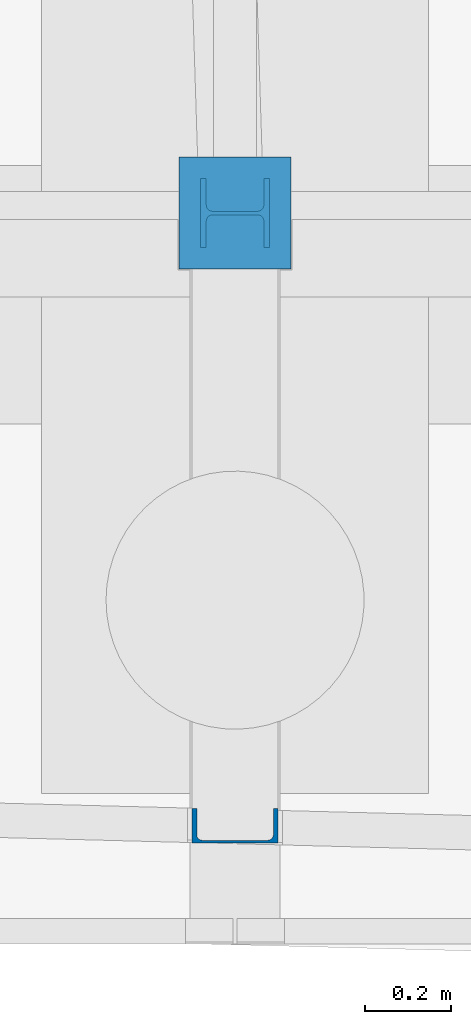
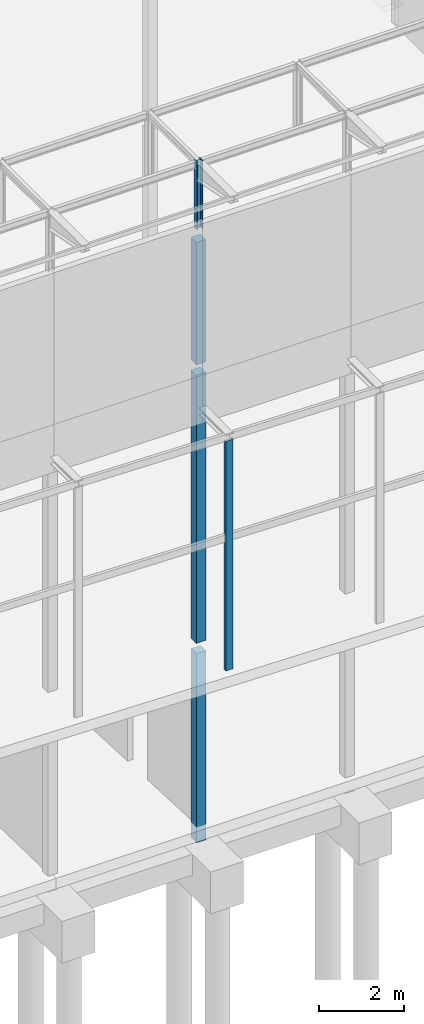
# One storey, part 33 of 82: 5 columns.
"""IFC2X3 building model written with IfcOpenShell, lengths in millimetres."""

from ifc_helpers import new_model, si_unit, frame, frame_2d, origin_with_axes, place, context, subcontext, project, spatial, rectangle, i_section, u_section, extrude, material, type_object, element, save


model = new_model("IFC2X3")

# Units and contexts
model_context = context("Model", 3, precision=1e-05, world=origin_with_axes())
body_context = subcontext(model_context, "Body", "Model", "MODEL_VIEW")
ifc_project = project(units=[si_unit("LENGTHUNIT", "METRE", prefix="MILLI"), si_unit("AREAUNIT", "SQUARE_METRE"), si_unit("VOLUMEUNIT", "CUBIC_METRE"), si_unit("MASSUNIT", "GRAM", prefix="KILO"), si_unit("TIMEUNIT", "SECOND"), si_unit("PLANEANGLEUNIT", "RADIAN"), si_unit("SOLIDANGLEUNIT", "STERADIAN"), si_unit("THERMODYNAMICTEMPERATUREUNIT", "DEGREE_CELSIUS"), si_unit("LUMINOUSINTENSITYUNIT", "LUMEN")], contexts=[model_context])

# Site, building, storey
site_placement = place(None, origin_with_axes())
site = spatial("IfcSite", under=ifc_project, at=site_placement, Name="Undefined", CompositionType="ELEMENT")
building_placement = place(site_placement, origin_with_axes())
building = spatial("IfcBuilding", under=site, at=building_placement, Name="Undefined", CompositionType="ELEMENT")
storey_placement = place(building_placement, origin_with_axes())
storey = spatial("IfcBuildingStorey", under=building, at=storey_placement, Name="Undefined", CompositionType="ELEMENT", Elevation=0.0)

# Columns
ifc_material_1 = material(Name="CONCRETE/C25/30")
column_type_1 = type_object("IfcColumnType", Name="260*260", PredefinedType="NOTDEFINED")
column_1_placement = place(storey_placement, frame((33299.9999999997, -2.40035831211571e-08, 13330.0), z_axis=(0.0, 0.0, 1.0), x_axis=(1.0, 0.0, 0.0)))
element("IfcColumn", 1, at=column_1_placement, inside=storey, type_object=column_type_1, material=ifc_material_1, Name="POTEAU", ObjectType="260*260", context=body_context, shape_type="SweptSolid", body=[
    extrude(rectangle(XDim=260.0, YDim=260.0, at=frame_2d((5.17284206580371e-08, 4.49290382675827e-10), x_axis=(1.0, 0.0))), frame((0.0, 0.0, 3529.99999999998), z_axis=(0.0, -6.50000002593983e-08, -0.999999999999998), x_axis=(-1.0, 0.0, 0.0)), (0.0, 0.0, 1.0), 3530.0),
])
column_2_placement = place(storey_placement, frame((33299.9999999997, -2.40035831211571e-08, 5300.0), z_axis=(0.0, 0.0, 1.0), x_axis=(1.0, 0.0, 0.0)))
element("IfcColumn", 2, at=column_2_placement, inside=storey, type_object=column_type_1, material=ifc_material_1, Name="POTEAU", ObjectType="260*260", context=body_context, shape_type="SweptSolid", body=[
    extrude(rectangle(XDim=260.0, YDim=260.0, at=frame_2d((5.17284206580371e-08, 4.49290382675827e-10), x_axis=(1.0, 0.0))), frame((0.0, 0.0, 7730.0), z_axis=(0.0, -6.50000002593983e-08, -0.999999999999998), x_axis=(-1.0, 0.0, 0.0)), (0.0, 0.0, 1.0), 7730.0),
])
column_3_placement = place(storey_placement, frame((33299.9999999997, -2.40035831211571e-08, -450.0), z_axis=(0.0, 0.0, 1.0), x_axis=(1.0, 0.0, 0.0)))
element("IfcColumn", 3, at=column_3_placement, inside=storey, type_object=column_type_1, material=ifc_material_1, Name="POTEAU", ObjectType="260*260", context=body_context, shape_type="SweptSolid", body=[
    extrude(rectangle(XDim=260.0, YDim=260.0, at=frame_2d((5.17284206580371e-08, 4.49290382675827e-10), x_axis=(1.0, 0.0))), frame((0.0, 0.0, 5450.00000000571), z_axis=(0.0, -6.50000002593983e-08, -0.999999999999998), x_axis=(-1.0, 0.0, 0.0)), (0.0, 0.0, 1.0), 5450.0),
])
ifc_material_2 = material(Name="STEEL/S275JR")
column_type_2 = type_object("IfcColumnType", Name="HEB160", PredefinedType="NOTDEFINED")
column_4_placement = place(storey_placement, frame((33300.0000000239, -6.23519724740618e-08, 17160.0), z_axis=(0.0, 0.0, 1.0), x_axis=(1.0, 0.0, 0.0)))
element("IfcColumn", 4, at=column_4_placement, inside=storey, type_object=column_type_2, material=ifc_material_2, Name="POTEAU", ObjectType="HEB160", context=body_context, shape_type="SweptSolid", body=[
    extrude(i_section(OverallWidth=160.0, OverallDepth=160.0, WebThickness=8.0, FlangeThickness=13.0, FilletRadius=15.0, at=frame_2d((5.17284206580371e-08, 4.49290382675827e-10), x_axis=(1.0, 0.0))), frame((0.0, 0.0, 1965.0), z_axis=(0.0, -6.50000002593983e-08, -0.999999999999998), x_axis=(-2.77555756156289e-17, -1.0, 0.0)), (0.0, 0.0, 1.0), 1965.0),
])
column_type_3 = type_object("IfcColumnType", Name="UPE200", PredefinedType="NOTDEFINED")
column_5_placement = place(storey_placement, frame((33299.999998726, -1424.26489737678, 5300.00000000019), z_axis=(0.0, 0.0, 1.0), x_axis=(1.0, 0.0, 0.0)))
element("IfcColumn", 5, at=column_5_placement, inside=storey, type_object=column_type_3, material=ifc_material_2, Name="POUTRE", ObjectType="UPE200", context=body_context, shape_type="SweptSolid", body=[
    extrude(u_section(Depth=200.0, FlangeWidth=80.0, WebThickness=6.0, FlangeThickness=11.0, FilletRadius=13.0, at=frame_2d((5.17284206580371e-08, 4.49290382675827e-10), x_axis=(1.0, 0.0))), frame((0.0, 0.0, 6625.00000000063), z_axis=(0.0, -6.50000002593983e-08, -0.999999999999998), x_axis=(0.0, 1.0, 0.0)), (0.0, 0.0, 1.0), 6625.0),
])

save(model, "model.ifc")
